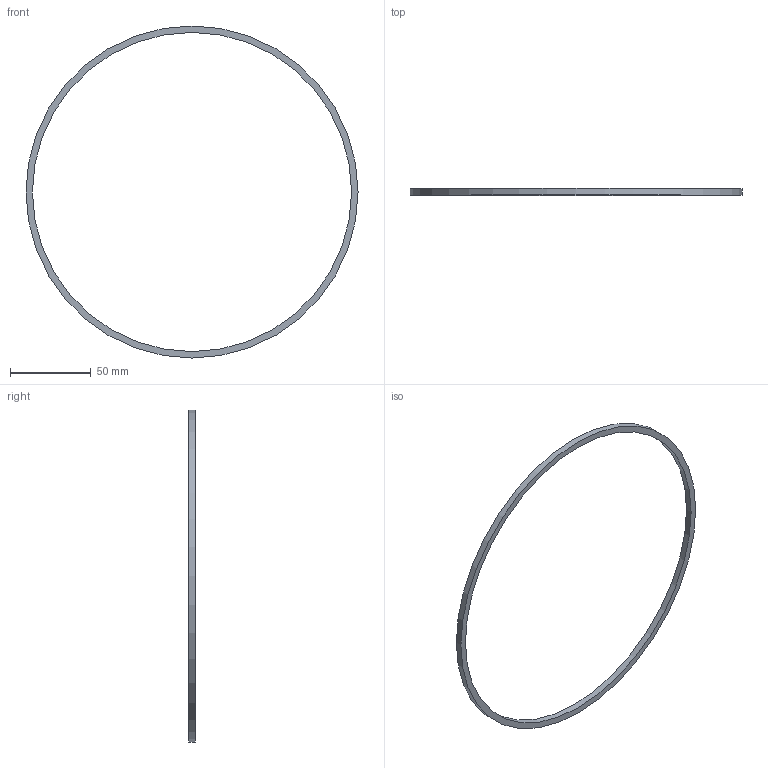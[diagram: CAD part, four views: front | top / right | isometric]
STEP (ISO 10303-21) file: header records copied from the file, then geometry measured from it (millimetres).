
FILE_DESCRIPTION(/* description */ (''),/* implementation_level */ '2;1');
FILE_NAME(/* name */ 'C:\Users\user\Documents\Inventor\Home Ventilator CPAP\Rubber ring.stp',/* time_stamp */ '2020-03-29T22:41:14+02:00',/* author */ ('user'),/* organization */ (''),/* preprocessor_version */ 'ST-DEVELOPER v16.5',/* originating_system */ 'Autodesk Inventor 2017',/* authorisation */ '');
FILE_SCHEMA (('AUTOMOTIVE_DESIGN { 1 0 10303 214 3 1 1 }'));
Length unit declared in the file: millimetre
Products named in the file (1): Rubber ring
Bounding box: 206 x 4 x 206 mm (x, y, z)
Volume: 10153.6 mm3; surface area: 10153.6 mm2
Topology: 1 solids, 1 shells, 4 faces, 6 edges, 4 vertices
Faces by surface type: cylinder 2, plane 2
Full cylindrical faces by diameter (mm): 198 x1, 206 x1
Entity records: 118 total; most frequent: DIRECTION 18, CARTESIAN_POINT 13, AXIS2_PLACEMENT_3D 9, EDGE_LOOP 8, ORIENTED_EDGE 8, FACE_BOUND 4, FACE_OUTER_BOUND 4, CIRCLE 4
